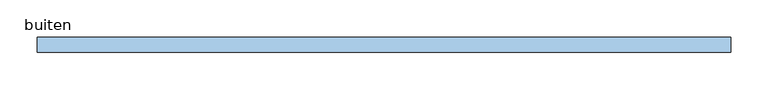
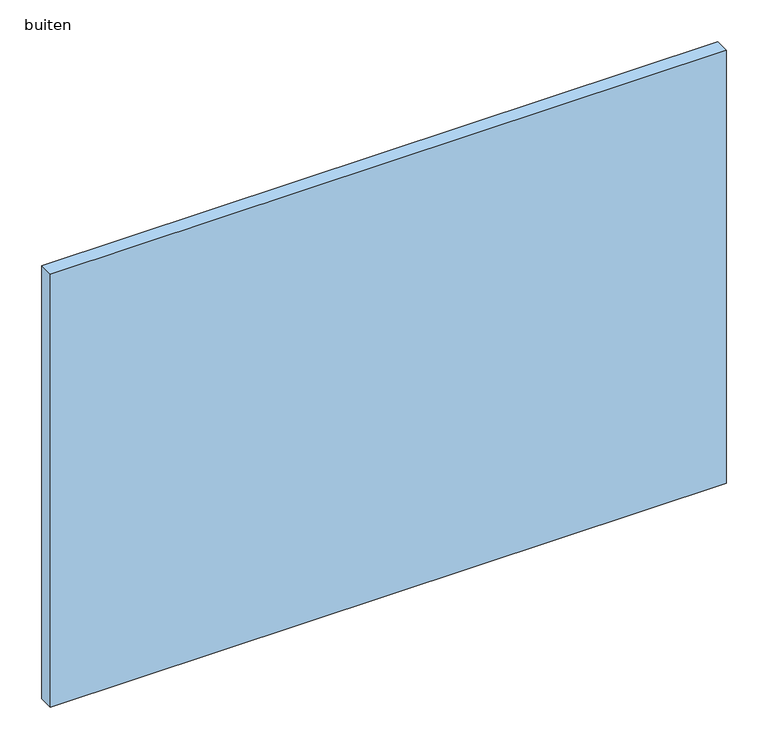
"""IFC4 building model written with IfcOpenShell, lengths in millimetres: window geometry, RBS_3-_WI_pui_glas_SH : buiten."""

import ifcopenshell
import ifcopenshell.guid

model = None  # the IFC model being written
_history = None  # IfcOwnerHistory: only IFC2X3 demands one
_inside = {}  # id of a spatial element -> (the spatial element, [elements in it])
_under = {}  # id of a project, library or spatial element -> (it, [spatial elements below it])
_declared = {}  # id of a project -> (the project, [libraries it declares])
_typed = {}  # id of a type object -> (the type object, [elements of that type])
_made_of = {}  # id of a material, layer set ... -> (it, [elements and type objects made of it])


def new_model(schema):
    """Start an empty IFC model of exactly this schema.

    Asked for "IFC4X3", IfcOpenShell would pick the latest addendum, in which some entities
    have other attributes; the version numbers below select the first issue.
    IFC2X3 requires an IfcOwnerHistory on every rooted entity: one is made here for all.
    """
    global model, _history
    if schema == "IFC4X3":
        model = ifcopenshell.file(schema_version=(4, 3, 0, 0))
    else:
        model = ifcopenshell.file(schema=schema)
    _inside.clear()
    _under.clear()
    _declared.clear()
    _typed.clear()
    _made_of.clear()
    _history = None
    if model.schema == "IFC2X3":
        org = make("IfcOrganization", Name="unknown")
        user = make(
            "IfcPersonAndOrganization",
            ThePerson=make("IfcPerson", FamilyName="unknown"),
            TheOrganization=org,
        )
        app = make(
            "IfcApplication",
            ApplicationDeveloper=org,
            Version="unknown",
            ApplicationFullName="unknown",
            ApplicationIdentifier="unknown",
        )
        _history = make(
            "IfcOwnerHistory",
            OwningUser=user,
            OwningApplication=app,
            ChangeAction="ADDED",
            CreationDate=0,
        )
    return model


def make(cls, **values):
    """One entity of the class cls with the attributes given. An attribute that is None is left unset."""
    return model.create_entity(
        cls, **{name: value for name, value in values.items() if value is not None}
    )


def rooted(cls, **values):
    """An entity with a GlobalId (a new one), such as an element, a storey or a relation."""
    return make(cls, GlobalId=ifcopenshell.guid.new(), OwnerHistory=_history, **values)


def si_unit(unit_type, name, prefix=None):
    """IfcSIUnit, for example si_unit("LENGTHUNIT", "METRE", prefix="MILLI")."""
    return make("IfcSIUnit", UnitType=unit_type, Prefix=prefix, Name=name)


def assignment(units):
    """IfcUnitAssignment: the units of a project."""
    return None if units is None else make("IfcUnitAssignment", Units=units)


def point(xyz):
    """IfcCartesianPoint."""
    return None if xyz is None else make("IfcCartesianPoint", Coordinates=xyz)


def direction(xyz):
    """IfcDirection."""
    return None if xyz is None else make("IfcDirection", DirectionRatios=xyz)


def frame(location, z_axis=None, x_axis=None):
    """IfcAxis2Placement3D, a coordinate frame: its origin and axes. An axis left out is left unset."""
    return make(
        "IfcAxis2Placement3D",
        Location=point(location),
        Axis=direction(z_axis),
        RefDirection=direction(x_axis),
    )


def origin():
    """The frame at (0, 0, 0) with its axes left unset."""
    return frame((0.0, 0.0, 0.0))


def origin_with_axes():
    """The frame at (0, 0, 0) with the z axis (0, 0, 1) and the x axis (1, 0, 0) written out."""
    return frame((0.0, 0.0, 0.0), z_axis=(0.0, 0.0, 1.0), x_axis=(1.0, 0.0, 0.0))


def place(relative_to, where):
    """IfcLocalPlacement: puts the frame where relative to a parent placement (None: the world)."""
    return make(
        "IfcLocalPlacement", PlacementRelTo=relative_to, RelativePlacement=where
    )


def context(
    kind, dimensions, precision=None, world=None, true_north=None, identifier=None
):
    """IfcGeometricRepresentationContext, for example the 3D "Model" context."""
    return make(
        "IfcGeometricRepresentationContext",
        ContextIdentifier=identifier,
        ContextType=kind,
        CoordinateSpaceDimension=dimensions,
        Precision=precision,
        WorldCoordinateSystem=world,
        TrueNorth=true_north,
    )


def project(units=None, contexts=None):
    """IfcProject with its units and contexts."""
    return rooted(
        "IfcProject",
        Name="project",
        RepresentationContexts=contexts,
        UnitsInContext=assignment(units),
    )


def spatial(cls, under=None, at=None, **own):
    """A site, building, storey or space (cls), placed at a placement, below another one or the project."""
    s = rooted(cls, ObjectPlacement=at, **own)
    if under is not None:
        _under.setdefault(under.id(), (under, []))[1].append(s)
    return s


def polyline(points):
    """IfcPolyline through the points."""
    return make("IfcPolyline", Points=[point(p) for p in points])


def outline(outer, holes=None, kind="AREA"):
    """IfcArbitraryClosedProfileDef: a profile drawn as a closed curve; with holes, ...WithVoids."""
    if holes is None:
        return make("IfcArbitraryClosedProfileDef", ProfileType=kind, OuterCurve=outer)
    return make(
        "IfcArbitraryProfileDefWithVoids",
        ProfileType=kind,
        OuterCurve=outer,
        InnerCurves=holes,
    )


def extrude(swept, where, along, depth):
    """IfcExtrudedAreaSolid: the profile swept, set in the frame where, extruded along a direction by depth."""
    return make(
        "IfcExtrudedAreaSolid",
        SweptArea=swept,
        Position=where,
        ExtrudedDirection=direction(along),
        Depth=depth,
    )


def shape(context_of_items, identifier, shape_type, items):
    """IfcShapeRepresentation: the items that make up one representation, for example the "Body"."""
    return make(
        "IfcShapeRepresentation",
        ContextOfItems=context_of_items,
        RepresentationIdentifier=identifier,
        RepresentationType=shape_type,
        Items=items,
    )


def source(mapping_origin, context_of_items, identifier, shape_type, items):
    """IfcRepresentationMap: a shape defined once, which mapped items show again and again."""
    return make(
        "IfcRepresentationMap",
        MappingOrigin=mapping_origin,
        MappedRepresentation=shape(context_of_items, identifier, shape_type, items),
    )


def transform(
    local_origin,
    x_axis=None,
    y_axis=None,
    z_axis=None,
    scale=None,
    scale2=None,
    scale3=None,
    uniform=True,
):
    """IfcCartesianTransformationOperator3D, or its non-uniform kind. x_axis, y_axis, z_axis: its Axis1, 2, 3."""
    if uniform:
        return make(
            "IfcCartesianTransformationOperator3D",
            Axis1=direction(x_axis),
            Axis2=direction(y_axis),
            LocalOrigin=point(local_origin),
            Scale=scale,
            Axis3=direction(z_axis),
        )
    return make(
        "IfcCartesianTransformationOperator3DnonUniform",
        Axis1=direction(x_axis),
        Axis2=direction(y_axis),
        LocalOrigin=point(local_origin),
        Scale=scale,
        Axis3=direction(z_axis),
        Scale2=scale2,
        Scale3=scale3,
    )


def mapped(mapping_source, mapping_target):
    """IfcMappedItem: shows the shape of a source again, moved by a transform."""
    return make(
        "IfcMappedItem", MappingSource=mapping_source, MappingTarget=mapping_target
    )


def made_of(thing, what):
    """Note that an element or type object is made of a material, layer set ...; save() writes the relation."""
    if what is not None:
        _made_of.setdefault(what.id(), (what, []))[1].append(thing)
    return thing


def element(
    cls,
    number,
    at=None,
    inside=None,
    cuts=None,
    type_object=None,
    material=None,
    context=None,
    identifier="Body",
    shape_type=None,
    held_by="IfcProductDefinitionShape",
    body=None,
    shapes=None,
    **own,
):
    """One element of the class cls, such as IfcWall. Its Tag is "e" and its number.

    at: its placement. inside: the storey or other place that contains it. cuts: it is an
    opening in that element (IfcRelVoidsElement). A single representation is given by context,
    identifier, shape_type and body (its items); several are given by shapes. held_by: the class
    of the entity that holds the representations. save() writes the other relations.
    """
    e = rooted(cls, Tag="e%d" % number, ObjectPlacement=at, **own)
    if body is not None:
        shapes = [shape(context, identifier, shape_type, body)]
    if shapes is not None:
        e.Representation = make(held_by, Representations=shapes)
    if inside is not None:
        _inside.setdefault(inside.id(), (inside, []))[1].append(e)
    if cuts is not None:
        rooted(
            "IfcRelVoidsElement", RelatingBuildingElement=cuts, RelatedOpeningElement=e
        )
    if type_object is not None:
        _typed.setdefault(type_object.id(), (type_object, []))[1].append(e)
    return made_of(e, material)


def aggregate(whole, parts):
    """IfcRelAggregates: a whole, such as a stair, and the parts it consists of."""
    return rooted("IfcRelAggregates", RelatingObject=whole, RelatedObjects=parts)


def save(model, path):
    """Write the relations noted so far, then the file.

    IfcRelAggregates (storeys below a building ...), IfcRelContainedInSpatialStructure (elements
    in a storey), IfcRelDefinesByType, IfcRelAssociatesMaterial and IfcRelDeclares: one each for
    every whole, place, type object, material and project.
    """
    for whole, parts in _under.values():
        aggregate(whole, parts)
    for where, things in _inside.values():
        rooted(
            "IfcRelContainedInSpatialStructure",
            RelatedElements=things,
            RelatingStructure=where,
        )
    for kind, things in _typed.values():
        rooted("IfcRelDefinesByType", RelatedObjects=things, RelatingType=kind)
    for what, things in _made_of.values():
        rooted("IfcRelAssociatesMaterial", RelatedObjects=things, RelatingMaterial=what)
    for by, libraries in _declared.values():
        rooted("IfcRelDeclares", RelatingContext=by, RelatedDefinitions=libraries)
    model.write(path)


def buiten_048b9824(model_context):
    return source(origin(), model_context, "Body", "SweptSolid", [
        extrude(outline(polyline([(465.0, -10.0), (-465.0, -10.0), (-465.0, 10.0), (465.0, 10.0), (465.0, -10.0)])), origin_with_axes(), (0.0, 0.0, 1.0), 630.0),
    ])


if __name__ == "__main__":
    model = new_model("IFC4")
    model_context = context("Model", 3, world=origin())
    ifc_project = project(units=[si_unit("LENGTHUNIT", "METRE", prefix="MILLI")], contexts=[model_context])
    site = spatial("IfcSite", under=ifc_project)
    building = spatial("IfcBuilding", under=site)
    placement = place(None, origin())
    buiten_shape = buiten_048b9824(model_context)
    element("IfcWindow", 1, ObjectType="RBS_3-_WI_pui_glas_SH : buiten", at=placement, inside=building, context=model_context, shape_type="MappedRepresentation", body=[
        mapped(buiten_shape, transform((0.0, 0.0, 0.0), x_axis=(1.0, 0.0, 0.0), y_axis=(0.0, 1.0, 0.0), z_axis=(0.0, 0.0, 1.0))),
    ])
    save(model, "model.ifc")
